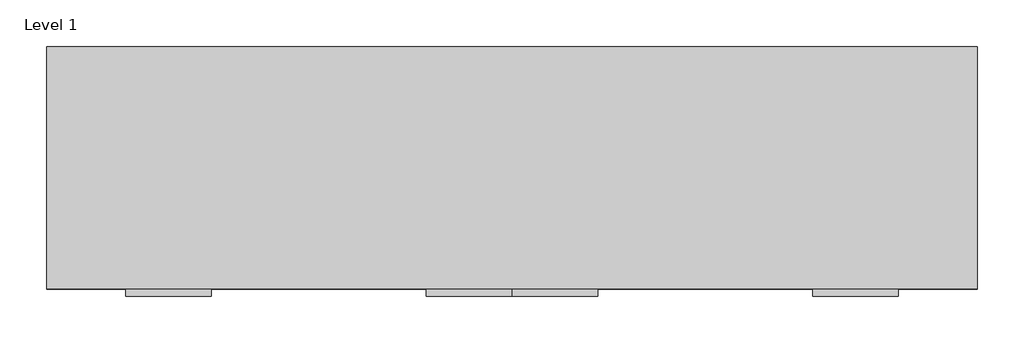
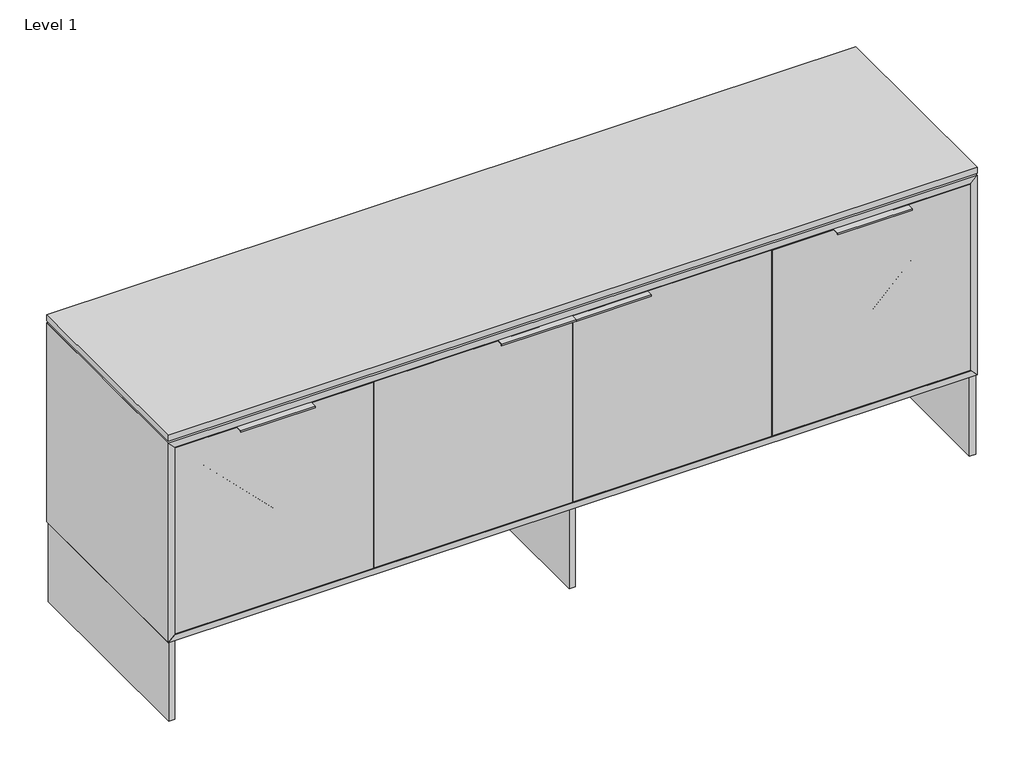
# One storey: 7 proxies.
"""IFC4 building model written with IfcOpenShell, lengths in millimetres."""

from ifc_helpers import new_model, si_unit, origin, place, context, project, spatial, transform, mapped, element, save
from components import generic_models_aee5ed7d, generic_models_e3513f17, generic_models_55746d80, generic_models_be555cd0

model = new_model("IFC4")

# Units and contexts
model_context = context("Model", 3, world=origin())
ifc_project = project(units=[si_unit("LENGTHUNIT", "METRE", prefix="MILLI")], contexts=[model_context])

# Site, building, storey
site = spatial("IfcSite", under=ifc_project)
building = spatial("IfcBuilding", under=site)
storey = spatial("IfcBuildingStorey", under=building, Name="Level 1", Elevation=0.0)

# Proxies
placement = place(None, origin())
generic_models_shape = generic_models_aee5ed7d(model_context)
element("IfcBuildingElementProxy", 1, Name="HAFELE 106.04.06-3 FINISHES", ObjectType="HAFELE 106.04.06-3 FINISHES", at=placement, inside=storey, context=model_context, shape_type="MappedRepresentation", body=[
    mapped(generic_models_shape, transform((1220.390625, -615.95, 867.56875), x_axis=(1.0, 0.0, 0.0), y_axis=(0.0, 0.0, 1.0), z_axis=(0.0, -1.0, 0.0))),
])
element("IfcBuildingElementProxy", 2, Name="HAFELE 106.04.06-3 FINISHES", ObjectType="HAFELE 106.04.06-3 FINISHES", at=placement, inside=storey, context=model_context, shape_type="MappedRepresentation", body=[
    mapped(generic_models_shape, transform((2006.4182312, -615.95, 867.56875), x_axis=(1.0, 0.0, 0.0), y_axis=(0.0, 0.0, 1.0), z_axis=(0.0, -1.0, 0.0))),
])
element("IfcBuildingElementProxy", 3, Name="HAFELE 106.04.06-3 FINISHES", ObjectType="HAFELE 106.04.06-3 FINISHES", at=placement, inside=storey, context=model_context, shape_type="MappedRepresentation", body=[
    mapped(generic_models_shape, transform((207.9791687, -615.95, 867.56875), x_axis=(1.0, 0.0, 0.0), y_axis=(0.0, 0.0, 1.0), z_axis=(0.0, -1.0, 0.0))),
])
element("IfcBuildingElementProxy", 4, Name="HAFELE 106.04.06-3 FINISHES", ObjectType="HAFELE 106.04.06-3 FINISHES", at=placement, inside=storey, context=model_context, shape_type="MappedRepresentation", body=[
    mapped(generic_models_shape, transform((994.006775, -615.95, 867.56875), x_axis=(1.0, 0.0, 0.0), y_axis=(0.0, 0.0, 1.0), z_axis=(0.0, -1.0, 0.0))),
])
generic_models_2_shape = generic_models_e3513f17(model_context)
element("IfcBuildingElementProxy", 5, Name="ELEVATE^CREDENZA 35h_25x96 B 4 DOOR-FLOAT", ObjectType="ELEVATE^CREDENZA 35h_25x96 B 4 DOOR-FLOAT", at=placement, inside=storey, context=model_context, shape_type="MappedRepresentation", body=[
    mapped(generic_models_2_shape, transform((19.05, -615.95, 889.0), x_axis=(1.0, 0.0, 0.0), y_axis=(0.0, 0.0, 1.0), z_axis=(0.0, -1.0, 0.0))),
])
generic_models_3_shape = generic_models_55746d80(model_context)
element("IfcBuildingElementProxy", 6, Name="ELEVATE^CREDENZA 35h_25x96 B 4 DOOR-STONE", ObjectType="ELEVATE^CREDENZA 35h_25x96 B 4 DOOR-STONE", at=placement, inside=storey, context=model_context, shape_type="MappedRepresentation", body=[
    mapped(generic_models_3_shape, transform((0.0, -635.0, 895.35), x_axis=(1.0, 0.0, 0.0), y_axis=(0.0, 0.0, 1.0), z_axis=(0.0, -1.0, 0.0))),
])
generic_models_4_shape = generic_models_be555cd0(model_context)
element("IfcBuildingElementProxy", 7, Name="ELEVATE^CREDENZA 35h_25x96 4 DOOR-PARTS SOLID", ObjectType="ELEVATE^CREDENZA 35h_25x96 4 DOOR-PARTS SOLID", at=placement, inside=storey, context=model_context, shape_type="MappedRepresentation", body=[
    mapped(generic_models_4_shape, transform((0.0, 0.0, 254.0), x_axis=(1.0, 0.0, 0.0), y_axis=(0.0, 0.0, 1.0), z_axis=(0.0, -1.0, 0.0))),
])

save(model, "model.ifc")
